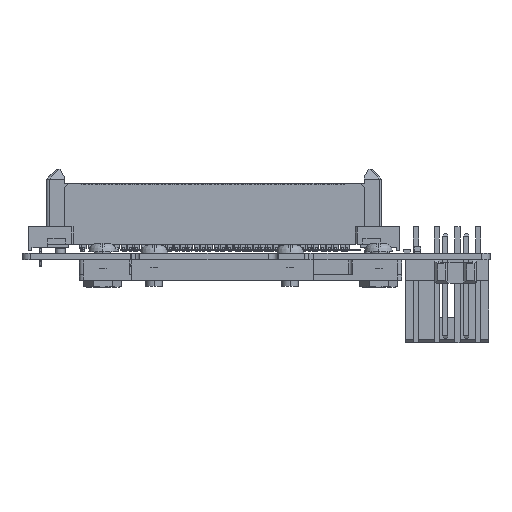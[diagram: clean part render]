
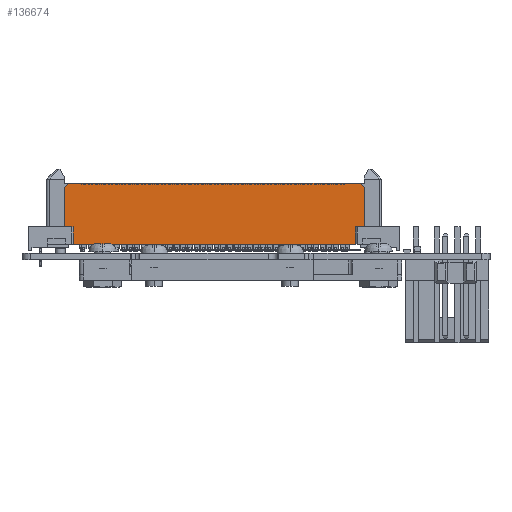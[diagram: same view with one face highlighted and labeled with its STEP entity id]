
A CAD part, front view. The second image highlights one B-rep face of the part: STEP entity #136674.
In plain terms, the highlighted planar face has unit normal (0, -1, 0) as drawn and (0, 1, 0) by its records, which use the part's own axes.
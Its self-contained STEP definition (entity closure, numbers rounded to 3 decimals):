
#110371 = VERTEX_POINT('',#110372);
#110372 = CARTESIAN_POINT('',(17.488,9.535,1.525));
#110378 = EDGE_CURVE('',#110379,#110371,#110381,.T.);
#110379 = VERTEX_POINT('',#110380);
#110380 = CARTESIAN_POINT('',(16.418,9.535,1.525));
#110381 = LINE('',#110382,#110383);
#110382 = CARTESIAN_POINT('',(16.288,9.535,1.525));
#110383 = VECTOR('',#110384,1.);
#110384 = DIRECTION('',(1.,0.,0.));
#120716 = VERTEX_POINT('',#120717);
#120717 = CARTESIAN_POINT('',(-18.702,9.535,1.525));
#120760 = VERTEX_POINT('',#120761);
#120761 = CARTESIAN_POINT('',(-17.632,9.535,1.525));
#120767 = EDGE_CURVE('',#120760,#120716,#120768,.T.);
#120768 = LINE('',#120769,#120770);
#120769 = CARTESIAN_POINT('',(-21.482,9.535,1.525));
#120770 = VECTOR('',#120771,1.);
#120771 = DIRECTION('',(-1.,0.,0.));
#134221 = EDGE_CURVE('',#134222,#134224,#134226,.T.);
#134222 = VERTEX_POINT('',#134223);
#134223 = CARTESIAN_POINT('',(16.988,9.535,
    -3.725));
#134224 = VERTEX_POINT('',#134225);
#134225 = CARTESIAN_POINT('',(17.488,9.535,-3.225));
#134226 = LINE('',#134227,#134228);
#134227 = CARTESIAN_POINT('',(17.488,9.535,-3.225));
#134228 = VECTOR('',#134229,1.);
#134229 = DIRECTION('',(0.707,0.,0.707));
#135629 = VERTEX_POINT('',#135630);
#135630 = CARTESIAN_POINT('',(-18.702,9.535,
    -3.225));
#135636 = EDGE_CURVE('',#135637,#135629,#135639,.T.);
#135637 = VERTEX_POINT('',#135638);
#135638 = CARTESIAN_POINT('',(-18.202,9.535,
    -3.725));
#135639 = LINE('',#135640,#135641);
#135640 = CARTESIAN_POINT('',(-18.702,9.535,-3.225));
#135641 = VECTOR('',#135642,1.);
#135642 = DIRECTION('',(-0.707,0.,0.707));
#136121 = VERTEX_POINT('',#136122);
#136122 = CARTESIAN_POINT('',(16.418,9.535,3.625));
#136128 = EDGE_CURVE('',#136129,#136121,#136131,.T.);
#136129 = VERTEX_POINT('',#136130);
#136130 = CARTESIAN_POINT('',(-17.632,9.535,3.625));
#136131 = LINE('',#136132,#136133);
#136132 = CARTESIAN_POINT('',(-17.582,9.535,3.625));
#136133 = VECTOR('',#136134,1.);
#136134 = DIRECTION('',(1.,0.,0.));
#136166 = EDGE_CURVE('',#136121,#110379,#136167,.T.);
#136167 = LINE('',#136168,#136169);
#136168 = CARTESIAN_POINT('',(16.418,9.535,3.625));
#136169 = VECTOR('',#136170,1.);
#136170 = DIRECTION('',(0.,0.,-1.));
#136180 = EDGE_CURVE('',#110371,#134224,#136181,.T.);
#136181 = LINE('',#136182,#136183);
#136182 = CARTESIAN_POINT('',(17.488,9.535,3.625));
#136183 = VECTOR('',#136184,1.);
#136184 = DIRECTION('',(0.,0.,-1.));
#136280 = EDGE_CURVE('',#134222,#135637,#136281,.T.);
#136281 = LINE('',#136282,#136283);
#136282 = CARTESIAN_POINT('',(-17.582,9.535,
    -3.725));
#136283 = VECTOR('',#136284,1.);
#136284 = DIRECTION('',(-1.,0.,0.));
#136644 = EDGE_CURVE('',#135629,#120716,#136645,.T.);
#136645 = LINE('',#136646,#136647);
#136646 = CARTESIAN_POINT('',(-18.702,9.535,3.625));
#136647 = VECTOR('',#136648,1.);
#136648 = DIRECTION('',(0.,0.,1.));
#136664 = EDGE_CURVE('',#120760,#136129,#136665,.T.);
#136665 = LINE('',#136666,#136667);
#136666 = CARTESIAN_POINT('',(-17.632,9.535,3.625));
#136667 = VECTOR('',#136668,1.);
#136668 = DIRECTION('',(0.,0.,1.));
#136674 = ADVANCED_FACE('',(#136675),#136687,.T.);
#136675 = FACE_BOUND('',#136676,.T.);
#136676 = EDGE_LOOP('',(#136677,#136678,#136679,#136680,#136681,#136682,
    #136683,#136684,#136685,#136686));
#136677 = ORIENTED_EDGE('',*,*,#120767,.F.);
#136678 = ORIENTED_EDGE('',*,*,#136664,.T.);
#136679 = ORIENTED_EDGE('',*,*,#136128,.T.);
#136680 = ORIENTED_EDGE('',*,*,#136166,.T.);
#136681 = ORIENTED_EDGE('',*,*,#110378,.T.);
#136682 = ORIENTED_EDGE('',*,*,#136180,.T.);
#136683 = ORIENTED_EDGE('',*,*,#134221,.F.);
#136684 = ORIENTED_EDGE('',*,*,#136280,.T.);
#136685 = ORIENTED_EDGE('',*,*,#135636,.T.);
#136686 = ORIENTED_EDGE('',*,*,#136644,.T.);
#136687 = PLANE('',#136688);
#136688 = AXIS2_PLACEMENT_3D('',#136689,#136690,#136691);
#136689 = CARTESIAN_POINT('',(-17.582,9.535,3.625));
#136690 = DIRECTION('',(0.,1.,0.));
#136691 = DIRECTION('',(0.,0.,1.));
